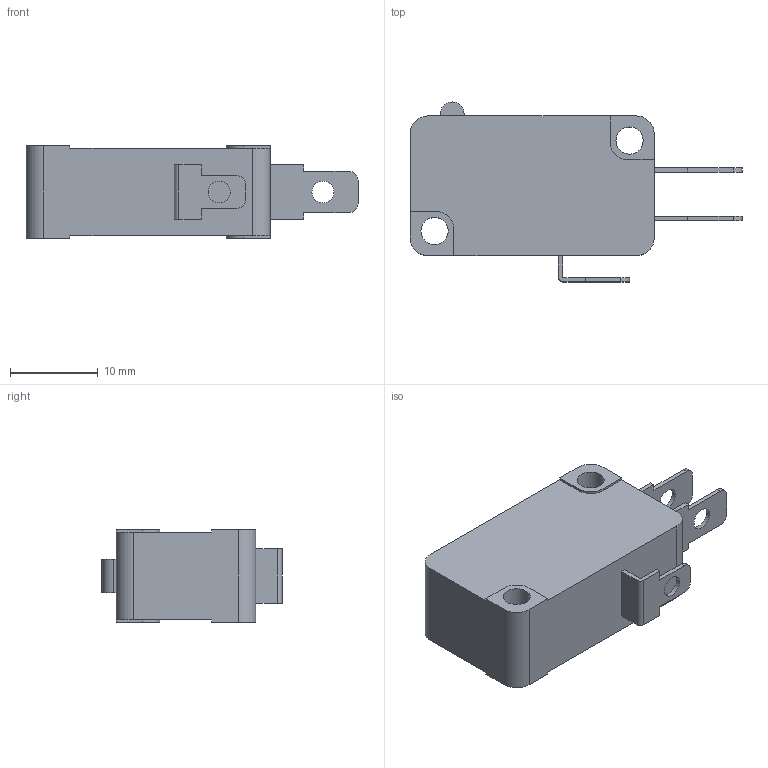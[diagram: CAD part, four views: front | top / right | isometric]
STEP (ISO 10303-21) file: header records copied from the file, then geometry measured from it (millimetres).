
FILE_DESCRIPTION(/* description */ (''),/* implementation_level */ '2;1');
FILE_NAME(/* name */ 'E:\Inventor 2016\제품 외형도\(완료) 리미트 스위치\소형 마이크로 스위치 (V형)\YS P-15C.stp',/* time_stamp */ '2019-04-09T10:04:07+09:00',/* author */ ('Kim'),/* organization */ (''),/* preprocessor_version */ 'ST-DEVELOPER v16.1',/* originating_system */ 'Autodesk Inventor 2016',/* authorisation */ '');
FILE_SCHEMA (('AUTOMOTIVE_DESIGN { 1 0 10303 214 3 1 1 }'));
Length unit declared in the file: millimetre
Products named in the file (1): YS P-15C
Bounding box: 37.8 x 20.5 x 10.5 mm (x, y, z)
Volume: 4275.1 mm3; surface area: 2389.1 mm2
Topology: 1 solids, 1 shells, 82 faces, 222 edges, 148 vertices
Faces by surface type: plane 61, cylinder 21
Full cylindrical faces by diameter (mm): 2.5 x3, 3.1 x2
Entity records: 2645 total; most frequent: CARTESIAN_POINT 448, ORIENTED_EDGE 434, DIRECTION 425, EDGE_CURVE 217, LINE 175, VECTOR 175, VERTEX_POINT 148, AXIS2_PLACEMENT_3D 125
